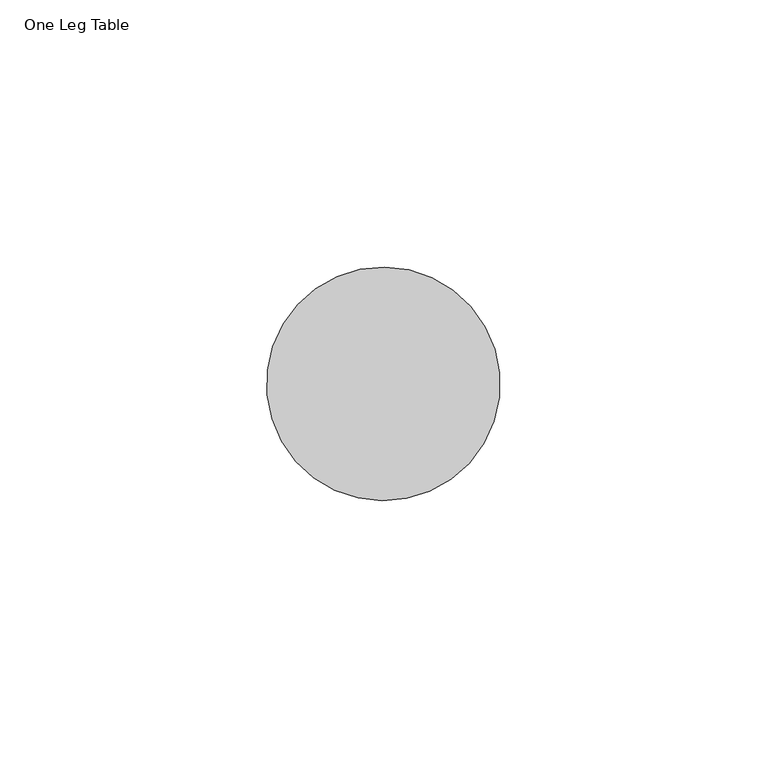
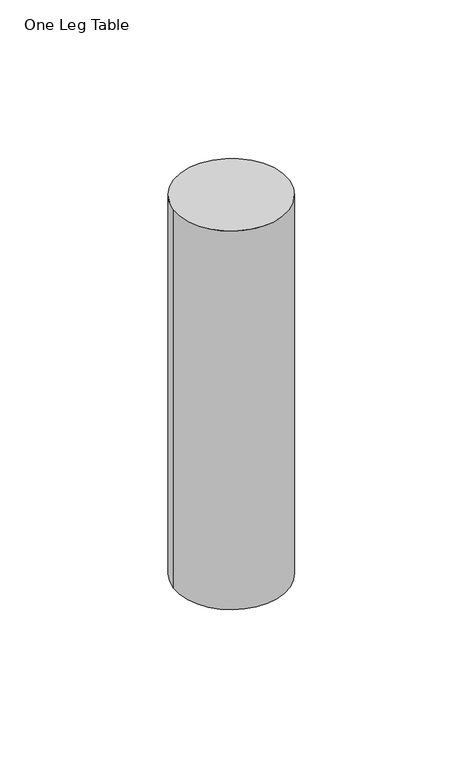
"""IFC4 building model written with IfcOpenShell, lengths in millimetres: furniture geometry, One Leg Table : Cylindrical Leg."""

import ifcopenshell
import ifcopenshell.guid

model = None  # the IFC model being written
_history = None  # IfcOwnerHistory: only IFC2X3 demands one
_inside = {}  # id of a spatial element -> (the spatial element, [elements in it])
_under = {}  # id of a project, library or spatial element -> (it, [spatial elements below it])
_declared = {}  # id of a project -> (the project, [libraries it declares])
_typed = {}  # id of a type object -> (the type object, [elements of that type])
_made_of = {}  # id of a material, layer set ... -> (it, [elements and type objects made of it])


def new_model(schema):
    """Start an empty IFC model of exactly this schema.

    Asked for "IFC4X3", IfcOpenShell would pick the latest addendum, in which some entities
    have other attributes; the version numbers below select the first issue.
    IFC2X3 requires an IfcOwnerHistory on every rooted entity: one is made here for all.
    """
    global model, _history
    if schema == "IFC4X3":
        model = ifcopenshell.file(schema_version=(4, 3, 0, 0))
    else:
        model = ifcopenshell.file(schema=schema)
    _inside.clear()
    _under.clear()
    _declared.clear()
    _typed.clear()
    _made_of.clear()
    _history = None
    if model.schema == "IFC2X3":
        org = make("IfcOrganization", Name="unknown")
        user = make(
            "IfcPersonAndOrganization",
            ThePerson=make("IfcPerson", FamilyName="unknown"),
            TheOrganization=org,
        )
        app = make(
            "IfcApplication",
            ApplicationDeveloper=org,
            Version="unknown",
            ApplicationFullName="unknown",
            ApplicationIdentifier="unknown",
        )
        _history = make(
            "IfcOwnerHistory",
            OwningUser=user,
            OwningApplication=app,
            ChangeAction="ADDED",
            CreationDate=0,
        )
    return model


def make(cls, **values):
    """One entity of the class cls with the attributes given. An attribute that is None is left unset."""
    return model.create_entity(
        cls, **{name: value for name, value in values.items() if value is not None}
    )


def rooted(cls, **values):
    """An entity with a GlobalId (a new one), such as an element, a storey or a relation."""
    return make(cls, GlobalId=ifcopenshell.guid.new(), OwnerHistory=_history, **values)


def si_unit(unit_type, name, prefix=None):
    """IfcSIUnit, for example si_unit("LENGTHUNIT", "METRE", prefix="MILLI")."""
    return make("IfcSIUnit", UnitType=unit_type, Prefix=prefix, Name=name)


def assignment(units):
    """IfcUnitAssignment: the units of a project."""
    return None if units is None else make("IfcUnitAssignment", Units=units)


def point(xyz):
    """IfcCartesianPoint."""
    return None if xyz is None else make("IfcCartesianPoint", Coordinates=xyz)


def direction(xyz):
    """IfcDirection."""
    return None if xyz is None else make("IfcDirection", DirectionRatios=xyz)


def frame(location, z_axis=None, x_axis=None):
    """IfcAxis2Placement3D, a coordinate frame: its origin and axes. An axis left out is left unset."""
    return make(
        "IfcAxis2Placement3D",
        Location=point(location),
        Axis=direction(z_axis),
        RefDirection=direction(x_axis),
    )


def frame_2d(location, x_axis=None):
    """IfcAxis2Placement2D, a coordinate frame in the plane: its origin and x axis."""
    return make(
        "IfcAxis2Placement2D", Location=point(location), RefDirection=direction(x_axis)
    )


def origin():
    """The frame at (0, 0, 0) with its axes left unset."""
    return frame((0.0, 0.0, 0.0))


def origin_with_axes():
    """The frame at (0, 0, 0) with the z axis (0, 0, 1) and the x axis (1, 0, 0) written out."""
    return frame((0.0, 0.0, 0.0), z_axis=(0.0, 0.0, 1.0), x_axis=(1.0, 0.0, 0.0))


def place(relative_to, where):
    """IfcLocalPlacement: puts the frame where relative to a parent placement (None: the world)."""
    return make(
        "IfcLocalPlacement", PlacementRelTo=relative_to, RelativePlacement=where
    )


def context(
    kind, dimensions, precision=None, world=None, true_north=None, identifier=None
):
    """IfcGeometricRepresentationContext, for example the 3D "Model" context."""
    return make(
        "IfcGeometricRepresentationContext",
        ContextIdentifier=identifier,
        ContextType=kind,
        CoordinateSpaceDimension=dimensions,
        Precision=precision,
        WorldCoordinateSystem=world,
        TrueNorth=true_north,
    )


def project(units=None, contexts=None):
    """IfcProject with its units and contexts."""
    return rooted(
        "IfcProject",
        Name="project",
        RepresentationContexts=contexts,
        UnitsInContext=assignment(units),
    )


def spatial(cls, under=None, at=None, **own):
    """A site, building, storey or space (cls), placed at a placement, below another one or the project."""
    s = rooted(cls, ObjectPlacement=at, **own)
    if under is not None:
        _under.setdefault(under.id(), (under, []))[1].append(s)
    return s


def circle_curve(where, radius):
    """IfcCircle in the frame where."""
    return make("IfcCircle", Position=where, Radius=radius)


def trimmed(basis, trim1, trim2, sense, master):
    """IfcTrimmedCurve: the piece of a basis curve between two trims."""
    return make(
        "IfcTrimmedCurve",
        BasisCurve=basis,
        Trim1=trim1,
        Trim2=trim2,
        SenseAgreement=sense,
        MasterRepresentation=master,
    )


def segment(curve, same_sense, transition):
    """IfcCompositeCurveSegment."""
    return make(
        "IfcCompositeCurveSegment",
        Transition=transition,
        SameSense=same_sense,
        ParentCurve=curve,
    )


def composite_curve(segments, self_intersect=None):
    """IfcCompositeCurve: segments joined end to end."""
    return make("IfcCompositeCurve", Segments=segments, SelfIntersect=self_intersect)


def outline(outer, holes=None, kind="AREA"):
    """IfcArbitraryClosedProfileDef: a profile drawn as a closed curve; with holes, ...WithVoids."""
    if holes is None:
        return make("IfcArbitraryClosedProfileDef", ProfileType=kind, OuterCurve=outer)
    return make(
        "IfcArbitraryProfileDefWithVoids",
        ProfileType=kind,
        OuterCurve=outer,
        InnerCurves=holes,
    )


def extrude(swept, where, along, depth):
    """IfcExtrudedAreaSolid: the profile swept, set in the frame where, extruded along a direction by depth."""
    return make(
        "IfcExtrudedAreaSolid",
        SweptArea=swept,
        Position=where,
        ExtrudedDirection=direction(along),
        Depth=depth,
    )


def shape(context_of_items, identifier, shape_type, items):
    """IfcShapeRepresentation: the items that make up one representation, for example the "Body"."""
    return make(
        "IfcShapeRepresentation",
        ContextOfItems=context_of_items,
        RepresentationIdentifier=identifier,
        RepresentationType=shape_type,
        Items=items,
    )


def source(mapping_origin, context_of_items, identifier, shape_type, items):
    """IfcRepresentationMap: a shape defined once, which mapped items show again and again."""
    return make(
        "IfcRepresentationMap",
        MappingOrigin=mapping_origin,
        MappedRepresentation=shape(context_of_items, identifier, shape_type, items),
    )


def transform(
    local_origin,
    x_axis=None,
    y_axis=None,
    z_axis=None,
    scale=None,
    scale2=None,
    scale3=None,
    uniform=True,
):
    """IfcCartesianTransformationOperator3D, or its non-uniform kind. x_axis, y_axis, z_axis: its Axis1, 2, 3."""
    if uniform:
        return make(
            "IfcCartesianTransformationOperator3D",
            Axis1=direction(x_axis),
            Axis2=direction(y_axis),
            LocalOrigin=point(local_origin),
            Scale=scale,
            Axis3=direction(z_axis),
        )
    return make(
        "IfcCartesianTransformationOperator3DnonUniform",
        Axis1=direction(x_axis),
        Axis2=direction(y_axis),
        LocalOrigin=point(local_origin),
        Scale=scale,
        Axis3=direction(z_axis),
        Scale2=scale2,
        Scale3=scale3,
    )


def mapped(mapping_source, mapping_target):
    """IfcMappedItem: shows the shape of a source again, moved by a transform."""
    return make(
        "IfcMappedItem", MappingSource=mapping_source, MappingTarget=mapping_target
    )


def made_of(thing, what):
    """Note that an element or type object is made of a material, layer set ...; save() writes the relation."""
    if what is not None:
        _made_of.setdefault(what.id(), (what, []))[1].append(thing)
    return thing


def element(
    cls,
    number,
    at=None,
    inside=None,
    cuts=None,
    type_object=None,
    material=None,
    context=None,
    identifier="Body",
    shape_type=None,
    held_by="IfcProductDefinitionShape",
    body=None,
    shapes=None,
    **own,
):
    """One element of the class cls, such as IfcWall. Its Tag is "e" and its number.

    at: its placement. inside: the storey or other place that contains it. cuts: it is an
    opening in that element (IfcRelVoidsElement). A single representation is given by context,
    identifier, shape_type and body (its items); several are given by shapes. held_by: the class
    of the entity that holds the representations. save() writes the other relations.
    """
    e = rooted(cls, Tag="e%d" % number, ObjectPlacement=at, **own)
    if body is not None:
        shapes = [shape(context, identifier, shape_type, body)]
    if shapes is not None:
        e.Representation = make(held_by, Representations=shapes)
    if inside is not None:
        _inside.setdefault(inside.id(), (inside, []))[1].append(e)
    if cuts is not None:
        rooted(
            "IfcRelVoidsElement", RelatingBuildingElement=cuts, RelatedOpeningElement=e
        )
    if type_object is not None:
        _typed.setdefault(type_object.id(), (type_object, []))[1].append(e)
    return made_of(e, material)


def aggregate(whole, parts):
    """IfcRelAggregates: a whole, such as a stair, and the parts it consists of."""
    return rooted("IfcRelAggregates", RelatingObject=whole, RelatedObjects=parts)


def save(model, path):
    """Write the relations noted so far, then the file.

    IfcRelAggregates (storeys below a building ...), IfcRelContainedInSpatialStructure (elements
    in a storey), IfcRelDefinesByType, IfcRelAssociatesMaterial and IfcRelDeclares: one each for
    every whole, place, type object, material and project.
    """
    for whole, parts in _under.values():
        aggregate(whole, parts)
    for where, things in _inside.values():
        rooted(
            "IfcRelContainedInSpatialStructure",
            RelatedElements=things,
            RelatingStructure=where,
        )
    for kind, things in _typed.values():
        rooted("IfcRelDefinesByType", RelatedObjects=things, RelatingType=kind)
    for what, things in _made_of.values():
        rooted("IfcRelAssociatesMaterial", RelatedObjects=things, RelatingMaterial=what)
    for by, libraries in _declared.values():
        rooted("IfcRelDeclares", RelatingContext=by, RelatedDefinitions=libraries)
    model.write(path)


def one_leg_table_213f602b(model_context):
    return source(origin(), model_context, "Body", "SweptSolid", [
        extrude(outline(composite_curve([segment(trimmed(circle_curve(frame_2d((-214.4131727, -131.9386121)), 21.8628153), [point((-192.6958366, -134.4565484))], [point((-236.1305088, -129.4206758))], False, "CARTESIAN"), True, "CONTINUOUS"), segment(trimmed(circle_curve(frame_2d((-214.4131727, -131.9386121)), 21.8628153), [point((-236.1305088, -129.4206758))], [point((-192.6958366, -134.4565484))], False, "CARTESIAN"), True, "CONTINUOUS")], self_intersect=False)), origin_with_axes(), (0.0, 0.0, 1.0), 159.258),
    ])


if __name__ == "__main__":
    model = new_model("IFC4")
    model_context = context("Model", 3, world=origin())
    ifc_project = project(units=[si_unit("LENGTHUNIT", "METRE", prefix="MILLI")], contexts=[model_context])
    site = spatial("IfcSite", under=ifc_project)
    building = spatial("IfcBuilding", under=site)
    placement = place(None, origin())
    one_leg_table_shape = one_leg_table_213f602b(model_context)
    element("IfcFurniture", 1, ObjectType="One Leg Table : Cylindrical Leg", at=placement, inside=building, context=model_context, shape_type="MappedRepresentation", body=[
        mapped(one_leg_table_shape, transform((0.0, 0.0, 0.0), x_axis=(1.0, 0.0, 0.0), y_axis=(0.0, 1.0, 0.0), z_axis=(0.0, 0.0, 1.0))),
    ])
    save(model, "model.ifc")
